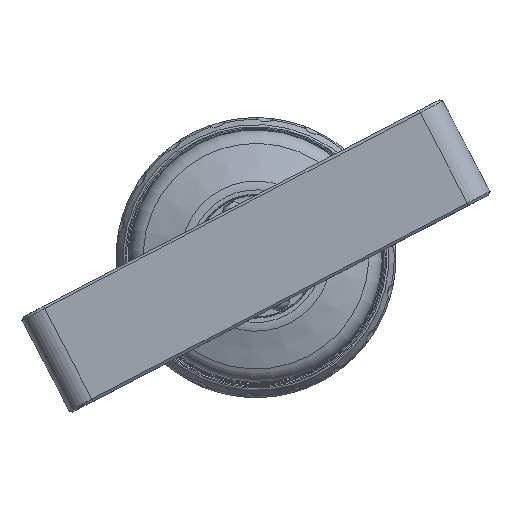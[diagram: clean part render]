
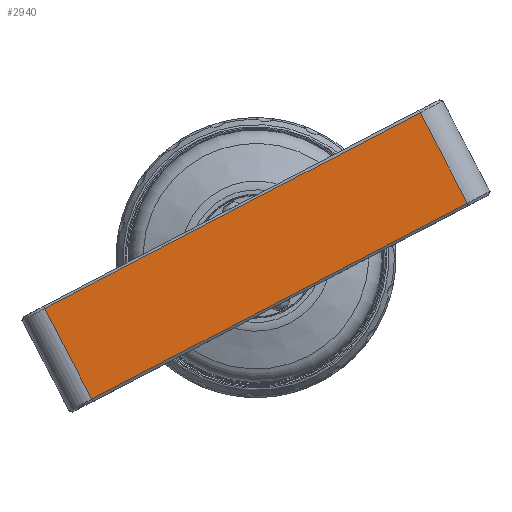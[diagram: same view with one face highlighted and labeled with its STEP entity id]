
A CAD part, top view. The second image highlights one B-rep face of the part: STEP entity #2940.
In plain terms, the highlighted planar face has unit normal (0, 0, 1).
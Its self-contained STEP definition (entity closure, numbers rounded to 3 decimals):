
#885 = VECTOR ( 'NONE', #8640, 1000. ) ;
#2577 = VECTOR ( 'NONE', #9134, 1000. ) ;
#2940 = ADVANCED_FACE ( 'NONE', ( #10849 ), #3914, .F. ) ;
#3031 = VERTEX_POINT ( 'NONE', #7014 ) ;
#3914 = PLANE ( 'NONE',  #5206 ) ;
#3996 = ORIENTED_EDGE ( 'NONE', *, *, #13368, .T. ) ;
#4095 = DIRECTION ( 'NONE',  ( 0.887, 0.463, 0. ) ) ;
#4970 = VECTOR ( 'NONE', #4095, 1000. ) ;
#5206 = AXIS2_PLACEMENT_3D ( 'NONE', #18991, #7154, #17266 ) ;
#5459 = CARTESIAN_POINT ( 'NONE',  ( 81.823, 21.769, 356.04 ) ) ;
#6105 = VERTEX_POINT ( 'NONE', #19558 ) ;
#6427 = EDGE_CURVE ( 'NONE', #7253, #3031, #11509, .T. ) ;
#6841 = CARTESIAN_POINT ( 'NONE',  ( -84.316, -18.667, 356.04 ) ) ;
#7014 = CARTESIAN_POINT ( 'NONE',  ( 81.823, 21.769, 356.04 ) ) ;
#7095 = EDGE_LOOP ( 'NONE', ( #11898, #17819, #3996, #9361 ) ) ;
#7154 = DIRECTION ( 'NONE',  ( 0., 0., -1. ) ) ;
#7253 = VERTEX_POINT ( 'NONE', #17162 ) ;
#7690 = LINE ( 'NONE', #18773, #885 ) ;
#8450 = VECTOR ( 'NONE', #20400, 1000. ) ;
#8640 = DIRECTION ( 'NONE',  ( -0.887, -0.463, 0. ) ) ;
#8932 = EDGE_CURVE ( 'NONE', #14522, #3031, #17900, .T. ) ;
#9008 = LINE ( 'NONE', #6841, #8450 ) ;
#9134 = DIRECTION ( 'NONE',  ( 0.463, -0.887, 0. ) ) ;
#9361 = ORIENTED_EDGE ( 'NONE', *, *, #8932, .T. ) ;
#10849 = FACE_OUTER_BOUND ( 'NONE', #7095, .T. ) ;
#11509 = LINE ( 'NONE', #19240, #2577 ) ;
#11898 = ORIENTED_EDGE ( 'NONE', *, *, #6427, .F. ) ;
#12635 = EDGE_CURVE ( 'NONE', #7253, #6105, #7690, .T. ) ;
#13368 = EDGE_CURVE ( 'NONE', #6105, #14522, #9008, .T. ) ;
#14522 = VERTEX_POINT ( 'NONE', #20782 ) ;
#17162 = CARTESIAN_POINT ( 'NONE',  ( 63.32, 57.232, 356.04 ) ) ;
#17266 = DIRECTION ( 'NONE',  ( 0.463, -0.887, 0. ) ) ;
#17819 = ORIENTED_EDGE ( 'NONE', *, *, #12635, .T. ) ;
#17900 = LINE ( 'NONE', #5459, #4970 ) ;
#18773 = CARTESIAN_POINT ( 'NONE',  ( 63.32, 57.232, 356.04 ) ) ;
#18991 = CARTESIAN_POINT ( 'NONE',  ( 62.857, 58.119, 356.04 ) ) ;
#19240 = CARTESIAN_POINT ( 'NONE',  ( 62.857, 58.119, 356.04 ) ) ;
#19558 = CARTESIAN_POINT ( 'NONE',  ( -83.853, -19.554, 356.04 ) ) ;
#20400 = DIRECTION ( 'NONE',  ( 0.463, -0.887, 0. ) ) ;
#20782 = CARTESIAN_POINT ( 'NONE',  ( -65.35, -55.017, 356.04 ) ) ;
